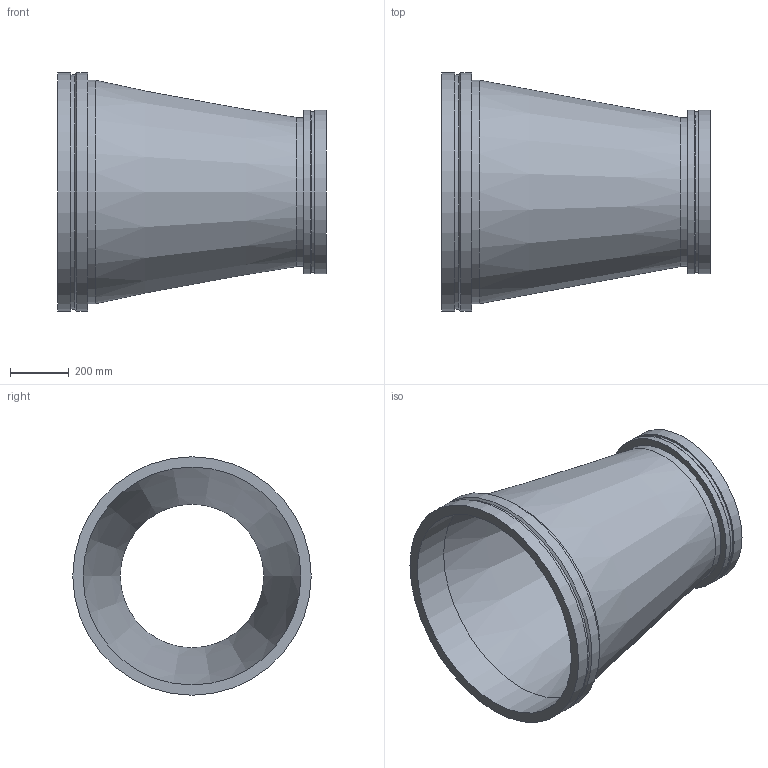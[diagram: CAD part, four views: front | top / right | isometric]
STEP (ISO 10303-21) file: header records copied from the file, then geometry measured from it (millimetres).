
FILE_DESCRIPTION(/* description */ ('VIC REDUCER CONCENTRIC No W50 VR','CAx-IF Rec.Pracs.---Representation and Presentation of Product Manufacturing Information (PMI)---4.0---2014-10-13'),/* implementation_level */ '2;1');
FILE_NAME(/* name */ 'C:\Users\kkamble\AppData\Roaming\Autodesk\ApplicationPlugins\Back Up\Victaulic_Vic-Ring_Reducer Concentric_No W50 VR (AGR)\Victaulic_Vic-Ring_Reducer Concentric_No W50 VR (AGR)_30.0x20.0 (750x500).stp',/* time_stamp */ '2020-09-10T11:46:24+05:00',/* author */ ('cps_temp'),/* organization */ ('Victaulic'),/* preprocessor_version */ 'ST-DEVELOPER v17.2',/* originating_system */ 'Autodesk Inventor 2019',/* authorisation */ '');
FILE_SCHEMA (('AP242_MANAGED_MODEL_BASED_3D_ENGINEERING_MIM_LF { 1 0 10303 442 1 1 4 }'));
Length unit declared in the file: inch
Products named in the file (1): W50 VR-30.0x20.0
Bounding box: 914.4 x 812.8 x 812.8 mm (x, y, z)
Volume: 26376338.7 mm3; surface area: 3977960 mm2
Topology: 1 solids, 1 shells, 20 faces, 54 edges, 40 vertices
Faces by surface type: cylinder 10, plane 6, cone 4
Full cylindrical faces by diameter (mm): 488.95 x1, 508 x1, 546.1 x1, 558.8 x2, 742.95 x1, 762 x1, 798.322 x1, 812.8 x2
Entity records: 830 total; most frequent: DIRECTION 162, CARTESIAN_POINT 132, ORIENTED_EDGE 108, AXIS2_PLACEMENT_3D 74, EDGE_CURVE 54, CIRCLE 40, VERTEX_POINT 40, EDGE_LOOP 26
